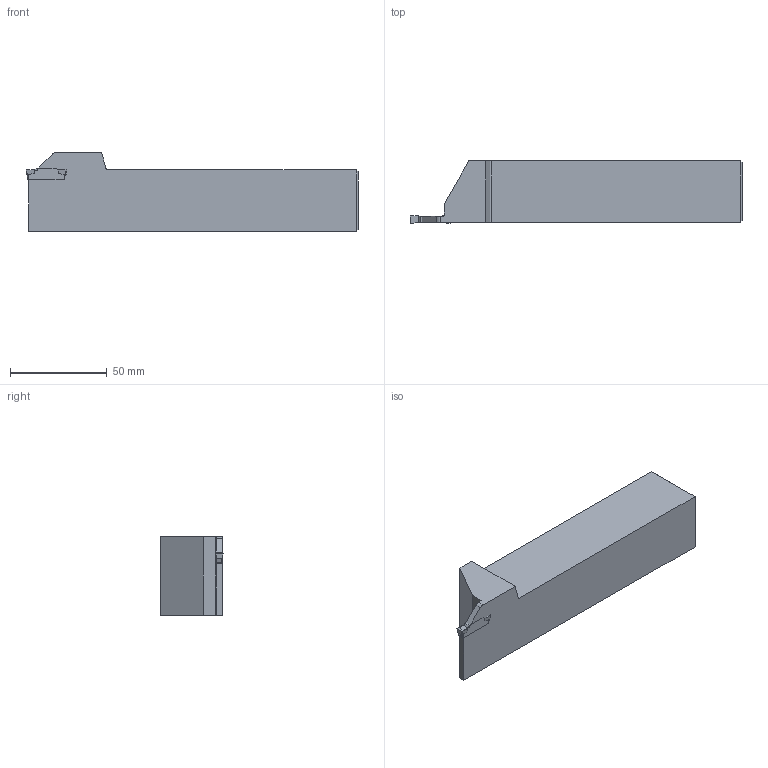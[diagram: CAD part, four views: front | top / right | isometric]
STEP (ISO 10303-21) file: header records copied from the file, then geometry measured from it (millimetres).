
FILE_DESCRIPTION(/* description */ (''),/* implementation_level */ '2;1');
FILE_NAME(/* name */ 'MGEHR20-4-HAAS_20200625.stp',/* time_stamp */ '2020-11-18T17:09:44+09:00',/* author */ (''),/* organization */ (''),/* preprocessor_version */ 'ST-DEVELOPER v11',/* originating_system */ 'SIEMENS UGS NX 6.0',/* authorisation */ '');
FILE_SCHEMA (('CONFIG_CONTROL_DESIGN'));
Length unit declared in the file: millimetre
Products named in the file (1): user1992zabh
Bounding box: 171.45 x 32.15 x 40.75 mm (x, y, z)
Volume: 157848.8 mm3; surface area: 23338.2 mm2
Topology: 2 solids, 2 shells, 55 faces, 145 edges, 94 vertices
Faces by surface type: plane 40, cylinder 15
Entity records: 1785 total; most frequent: CARTESIAN_POINT 319, ORIENTED_EDGE 290, DIRECTION 283, EDGE_CURVE 145, LINE 111, VECTOR 111, VERTEX_POINT 94, AXIS2_PLACEMENT_3D 86
